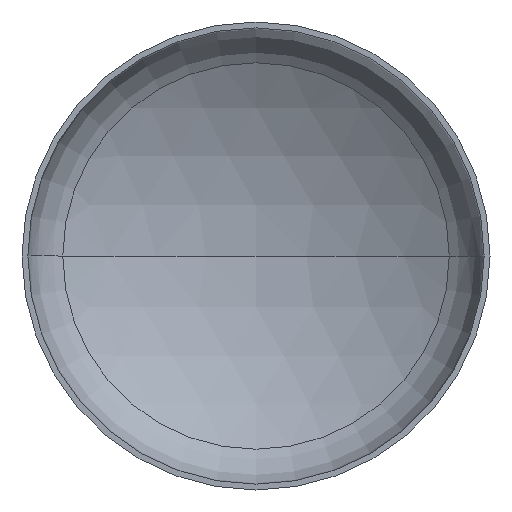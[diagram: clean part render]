
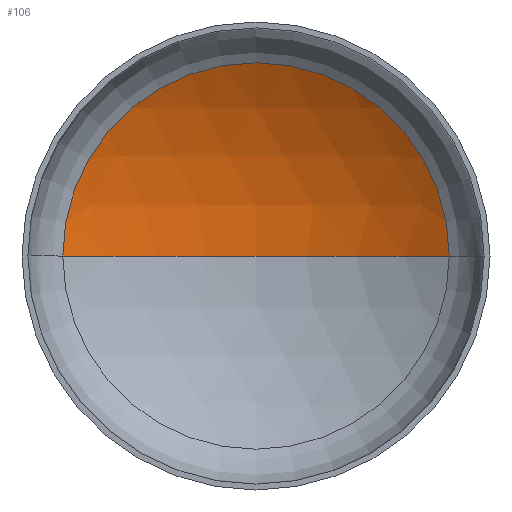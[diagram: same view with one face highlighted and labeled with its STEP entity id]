
A CAD part, front view. The second image highlights one B-rep face of the part: STEP entity #106.
In plain terms, the highlighted spherical face has radius 960 mm.
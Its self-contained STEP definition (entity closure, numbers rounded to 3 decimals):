
#5 = CARTESIAN_POINT ( 'NONE',  ( 0., 341.204, 0. ) ) ;
#13 = AXIS2_PLACEMENT_3D ( 'NONE', #88, #94, #264 ) ;
#14 = AXIS2_PLACEMENT_3D ( 'NONE', #141, #306, #130 ) ;
#18 = AXIS2_PLACEMENT_3D ( 'NONE', #137, #127, #134 ) ;
#27 = EDGE_LOOP ( 'NONE', ( #171, #155, #230 ) ) ;
#45 = AXIS2_PLACEMENT_3D ( 'NONE', #302, #187, #297 ) ;
#51 = VERTEX_POINT ( 'NONE', #242 ) ;
#88 = CARTESIAN_POINT ( 'NONE',  ( 0., -618.796, 0. ) ) ;
#94 = DIRECTION ( 'NONE',  ( 0., 0., 1. ) ) ;
#106 = ADVANCED_FACE ( 'NONE', ( #320 ), #253, .F. ) ;
#127 = DIRECTION ( 'NONE',  ( 0., -1., 0. ) ) ;
#130 = DIRECTION ( 'NONE',  ( -1., 0., 0. ) ) ;
#131 = CIRCLE ( 'NONE', #18, 495.484 ) ;
#134 = DIRECTION ( 'NONE',  ( 1., 0., 0. ) ) ;
#137 = CARTESIAN_POINT ( 'NONE',  ( 0., 203.455, 0. ) ) ;
#141 = CARTESIAN_POINT ( 'NONE',  ( 0., -618.796, 0. ) ) ;
#155 = ORIENTED_EDGE ( 'NONE', *, *, #343, .T. ) ;
#171 = ORIENTED_EDGE ( 'NONE', *, *, #348, .F. ) ;
#187 = DIRECTION ( 'NONE',  ( 0., 0., -1. ) ) ;
#223 = VERTEX_POINT ( 'NONE', #5 ) ;
#228 = VERTEX_POINT ( 'NONE', #255 ) ;
#230 = ORIENTED_EDGE ( 'NONE', *, *, #341, .T. ) ;
#242 = CARTESIAN_POINT ( 'NONE',  ( -495.484, 203.455, 0. ) ) ;
#253 = SPHERICAL_SURFACE ( 'NONE', #45, 960. ) ;
#255 = CARTESIAN_POINT ( 'NONE',  ( 495.484, 203.455, 0. ) ) ;
#264 = DIRECTION ( 'NONE',  ( 1., 0., 0. ) ) ;
#287 = CIRCLE ( 'NONE', #14, 960. ) ;
#297 = DIRECTION ( 'NONE',  ( -1., 0., 0. ) ) ;
#302 = CARTESIAN_POINT ( 'NONE',  ( 0., -618.796, 0. ) ) ;
#306 = DIRECTION ( 'NONE',  ( 0., 0., -1. ) ) ;
#320 = FACE_OUTER_BOUND ( 'NONE', #27, .T. ) ;
#341 = EDGE_CURVE ( 'NONE', #228, #51, #131, .T. ) ;
#343 = EDGE_CURVE ( 'NONE', #223, #228, #287, .T. ) ;
#348 = EDGE_CURVE ( 'NONE', #223, #51, #356, .T. ) ;
#356 = CIRCLE ( 'NONE', #13, 960. ) ;
